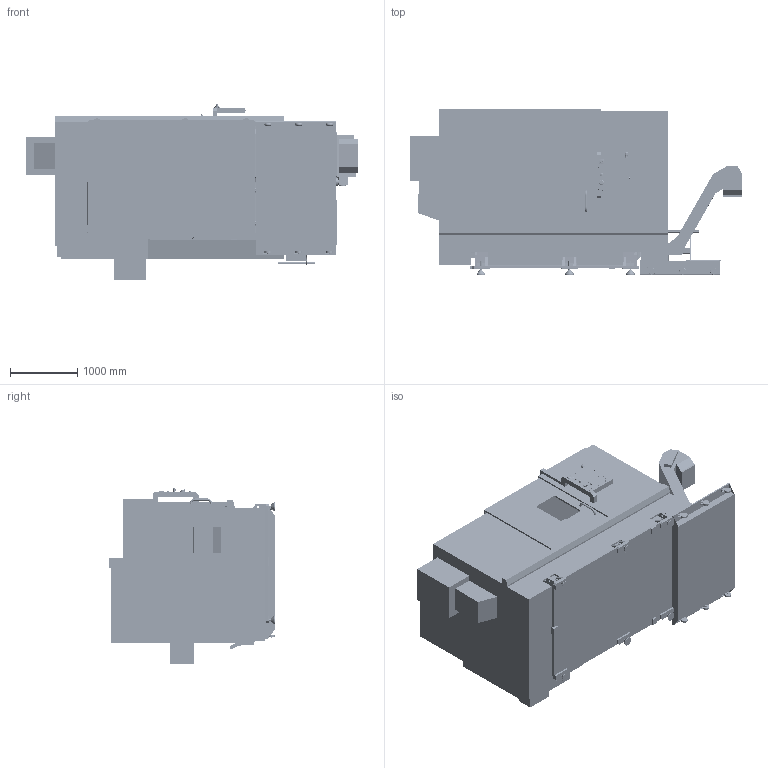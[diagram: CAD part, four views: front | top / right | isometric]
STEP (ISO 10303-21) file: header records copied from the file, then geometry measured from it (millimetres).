
FILE_DESCRIPTION (( 'STEP AP203' ), '1' );
FILE_NAME ('ST-45SY_6_2024.STEP', '2024-06-27T14:37:51', ( '' ), ( '' ), 'SwSTEP 2.0', 'SolidWorks 2022', '' );
FILE_SCHEMA (( 'CONFIG_CONTROL_DESIGN' ));
Length unit declared in the file: inch
Products named in the file (13): BMT 75 Y AXIS TURRET; bmt 75 inch; ST-40S control pendant; bmt175 metric; ST-40S 18 inch  chuck and spindle; ST-45SY_6_2024; ST-40S leveling pads; ST-40S tailstock; ST-40S Y wedge; ST-40S conveyor; ST-40S full enclosure; ST-40S coolant; ST-40S base casting
Assembly tree (12 placements, depth 2):
  ST-45SY_6_2024
    ST-40S full enclosure
    ST-40S base casting
    ST-40S Y wedge
    ST-40S tailstock
    ST-40S coolant
    ST-40S conveyor
    ST-40S 18 inch  chuck and spindle
    ST-40S leveling pads
    ST-40S control pendant
    BMT 75 Y AXIS TURRET
    bmt 75 inch
    bmt175 metric
Bounding box: 4921.44 x 2458.21 x 2599.48 mm (x, y, z)
Volume: 7446458998.5 mm3; surface area: 123693155.2 mm2
Topology: 73 solids, 87 shells, 9694 faces, 24858 edges, 15762 vertices
Faces by surface type: plane 5107, cylinder 2459, bspline 843, cone 780, torus 361, sphere 144
Entity records: 344437 total; most frequent: CARTESIAN_POINT 116674, ORIENTED_EDGE 49376, DIRECTION 43520, EDGE_CURVE 24688, VERTEX_POINT 15762, AXIS2_PLACEMENT_3D 14737, VECTOR 14046, LINE 14046
